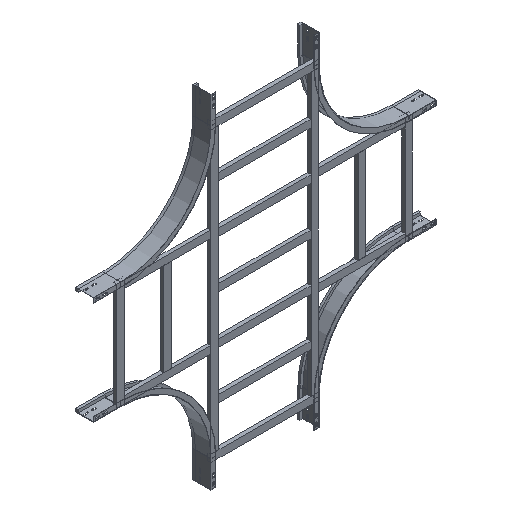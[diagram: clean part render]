
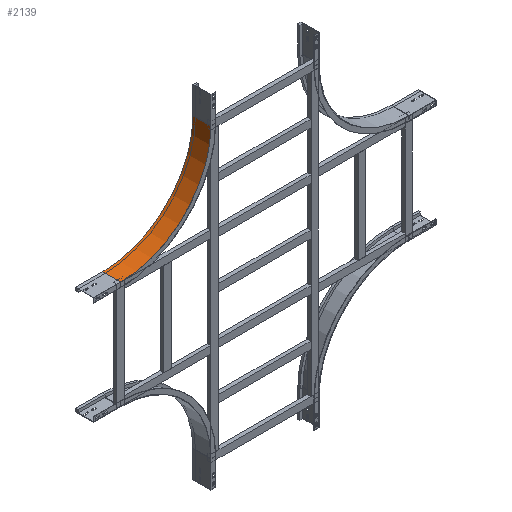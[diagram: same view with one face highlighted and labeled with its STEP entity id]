
A CAD part, isometric view. The second image highlights one B-rep face of the part: STEP entity #2139.
In plain terms, the highlighted cylindrical face has radius 500 mm (diameter 1000 mm), a partial arc.
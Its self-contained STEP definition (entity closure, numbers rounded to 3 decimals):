
#86 = DIRECTION ( 'NONE',  ( 0., 1., 0. ) ) ;
#164 = CARTESIAN_POINT ( 'NONE',  ( 0., 0., -150. ) ) ;
#198 = DIRECTION ( 'NONE',  ( 0., 1., 0. ) ) ;
#285 = DIRECTION ( 'NONE',  ( 0., -1., 0. ) ) ;
#341 = DIRECTION ( 'NONE',  ( -1., 0., 0. ) ) ;
#378 = VERTEX_POINT ( 'NONE', #2054 ) ;
#388 = CARTESIAN_POINT ( 'NONE',  ( 500., 100., -650. ) ) ;
#420 = AXIS2_PLACEMENT_3D ( 'NONE', #1985, #2909, #886 ) ;
#423 = CIRCLE ( 'NONE', #420, 500. ) ;
#611 = CARTESIAN_POINT ( 'NONE',  ( 0., 100., -150. ) ) ;
#697 = EDGE_CURVE ( 'NONE', #378, #708, #1941, .T. ) ;
#708 = VERTEX_POINT ( 'NONE', #611 ) ;
#732 = CYLINDRICAL_SURFACE ( 'NONE', #1448, 500. ) ;
#759 = DIRECTION ( 'NONE',  ( 0., 0., -1. ) ) ;
#783 = VECTOR ( 'NONE', #198, 1000. ) ;
#874 = ORIENTED_EDGE ( 'NONE', *, *, #2914, .F. ) ;
#886 = DIRECTION ( 'NONE',  ( -1., 0., 0. ) ) ;
#965 = CIRCLE ( 'NONE', #2697, 500. ) ;
#974 = VERTEX_POINT ( 'NONE', #1314 ) ;
#1100 = ORIENTED_EDGE ( 'NONE', *, *, #697, .F. ) ;
#1206 = CARTESIAN_POINT ( 'NONE',  ( 500., 0., -150. ) ) ;
#1285 = EDGE_CURVE ( 'NONE', #378, #974, #965, .T. ) ;
#1286 = VERTEX_POINT ( 'NONE', #388 ) ;
#1314 = CARTESIAN_POINT ( 'NONE',  ( 500., 0., -650. ) ) ;
#1448 = AXIS2_PLACEMENT_3D ( 'NONE', #1206, #285, #759 ) ;
#1510 = EDGE_LOOP ( 'NONE', ( #874, #1100, #2677, #2608 ) ) ;
#1670 = CARTESIAN_POINT ( 'NONE',  ( 500., 0., -150. ) ) ;
#1941 = LINE ( 'NONE', #164, #783 ) ;
#1985 = CARTESIAN_POINT ( 'NONE',  ( 500., 100., -150. ) ) ;
#2054 = CARTESIAN_POINT ( 'NONE',  ( 0., 0., -150. ) ) ;
#2113 = CARTESIAN_POINT ( 'NONE',  ( 500., 0., -650. ) ) ;
#2121 = VECTOR ( 'NONE', #86, 1000. ) ;
#2139 = ADVANCED_FACE ( 'NONE', ( #2320 ), #732, .F. ) ;
#2320 = FACE_OUTER_BOUND ( 'NONE', #1510, .T. ) ;
#2382 = DIRECTION ( 'NONE',  ( 0., -1., 0. ) ) ;
#2468 = EDGE_CURVE ( 'NONE', #974, #1286, #2542, .T. ) ;
#2542 = LINE ( 'NONE', #2113, #2121 ) ;
#2608 = ORIENTED_EDGE ( 'NONE', *, *, #2468, .T. ) ;
#2677 = ORIENTED_EDGE ( 'NONE', *, *, #1285, .T. ) ;
#2697 = AXIS2_PLACEMENT_3D ( 'NONE', #1670, #2382, #341 ) ;
#2909 = DIRECTION ( 'NONE',  ( 0., -1., 0. ) ) ;
#2914 = EDGE_CURVE ( 'NONE', #708, #1286, #423, .T. ) ;
